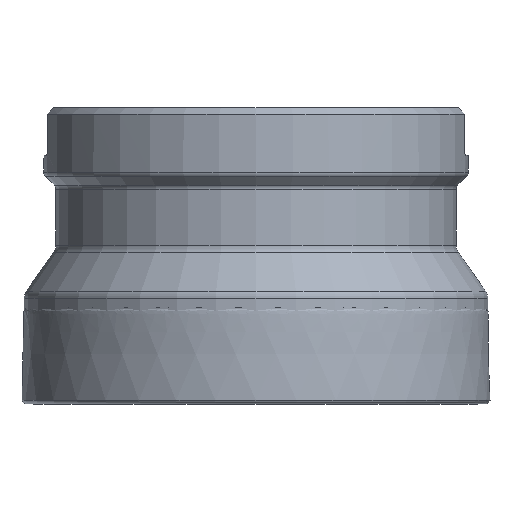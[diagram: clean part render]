
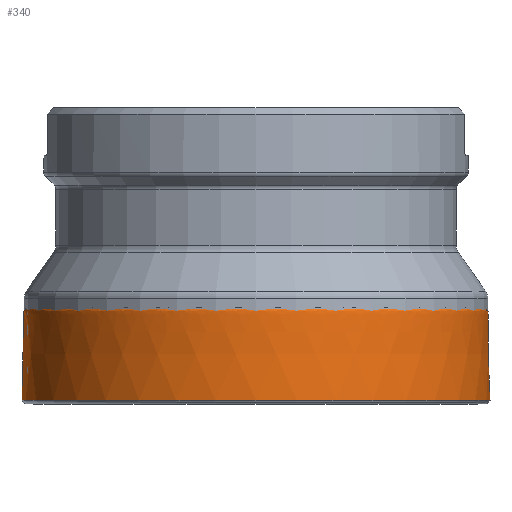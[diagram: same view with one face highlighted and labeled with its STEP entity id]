
A CAD part, front view. The second image highlights one B-rep face of the part: STEP entity #340.
In plain terms, the highlighted face is a revolution surface.
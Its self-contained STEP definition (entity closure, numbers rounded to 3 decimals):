
#72=SURFACE_OF_REVOLUTION('',#205,#78);
#78=AXIS1_PLACEMENT('',#1906,#1332);
#205=B_SPLINE_CURVE_WITH_KNOTS('',3,(#1889,#1890,#1891,#1892,#1893,#1894,
#1895,#1896,#1897,#1898,#1899,#1900,#1901,#1902,#1903,#1904,#1905),
 .UNSPECIFIED.,.F.,.F.,(4,2,1,2,2,2,2,2,4),(0.,0.5,0.75,
0.813,0.844,0.875,0.906,
0.938,1.),.UNSPECIFIED.);
#276=FACE_BOUND('',#479,.T.);
#277=FACE_BOUND('',#480,.T.);
#340=ADVANCED_FACE('',(#276,#277),#72,.F.);
#479=EDGE_LOOP('',(#735));
#480=EDGE_LOOP('',(#736));
#735=ORIENTED_EDGE('',*,*,#923,.T.);
#736=ORIENTED_EDGE('',*,*,#922,.F.);
#818=VERTEX_POINT('',#1866);
#819=VERTEX_POINT('',#1888);
#922=EDGE_CURVE('',#818,#818,#974,.T.);
#923=EDGE_CURVE('',#819,#819,#975,.T.);
#974=CIRCLE('',#1082,38.584);
#975=CIRCLE('',#1083,36.178);
#1082=AXIS2_PLACEMENT_3D('',#1865,#1327,#1328);
#1083=AXIS2_PLACEMENT_3D('',#1887,#1330,#1331);
#1327=DIRECTION('',(0.,0.,-1.));
#1328=DIRECTION('',(-1.,0.,0.));
#1330=DIRECTION('',(0.,0.,-1.));
#1331=DIRECTION('',(-1.,0.,0.));
#1332=DIRECTION('',(0.,0.,-1.));
#1865=CARTESIAN_POINT('',(0.,0.,1.776));
#1866=CARTESIAN_POINT('',(-38.584,0.,1.776));
#1887=CARTESIAN_POINT('',(0.,0.,17.118));
#1888=CARTESIAN_POINT('',(-36.178,0.,17.118));
#1889=CARTESIAN_POINT('',(0.,38.584,1.776));
#1890=CARTESIAN_POINT('',(0.,38.499,4.632));
#1891=CARTESIAN_POINT('',(0.,38.462,7.489));
#1892=CARTESIAN_POINT('',(0.,38.375,11.774));
#1893=CARTESIAN_POINT('',(0.,38.339,13.56));
#1894=CARTESIAN_POINT('',(0.,38.303,15.345));
#1895=CARTESIAN_POINT('',(0.,38.292,15.881));
#1896=CARTESIAN_POINT('',(0.,38.288,16.06));
#1897=CARTESIAN_POINT('',(0.,38.282,16.417));
#1898=CARTESIAN_POINT('',(0.,38.255,16.598));
#1899=CARTESIAN_POINT('',(0.,38.075,16.902));
#1900=CARTESIAN_POINT('',(0.,37.931,17.024));
#1901=CARTESIAN_POINT('',(0.,37.6,17.149));
#1902=CARTESIAN_POINT('',(0.,37.416,17.134));
#1903=CARTESIAN_POINT('',(0.,36.885,17.127));
#1904=CARTESIAN_POINT('',(0.,36.531,17.122));
#1905=CARTESIAN_POINT('',(0.,36.178,17.118));
#1906=CARTESIAN_POINT('',(0.,0.,0.));
